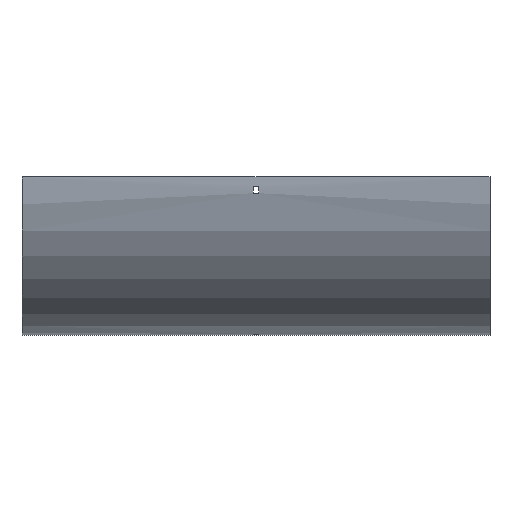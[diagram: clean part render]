
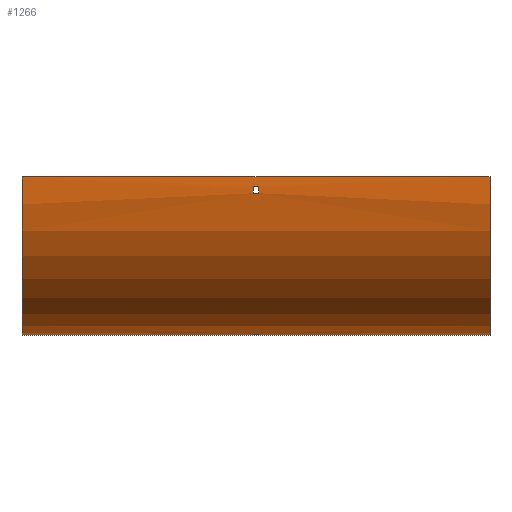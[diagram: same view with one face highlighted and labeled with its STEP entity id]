
A CAD part, front view. The second image highlights one B-rep face of the part: STEP entity #1266.
In plain terms, the highlighted cylindrical face has radius 204 mm (diameter 408 mm), a partial arc.
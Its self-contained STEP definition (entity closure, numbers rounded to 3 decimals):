
#30 = DIRECTION ( 'NONE',  ( 1., 0., 0. ) ) ;
#44 = VECTOR ( 'NONE', #469, 1000. ) ;
#45 = CIRCLE ( 'NONE', #1165, 204. ) ;
#51 = DIRECTION ( 'NONE',  ( 1., 0., 0. ) ) ;
#89 = EDGE_LOOP ( 'NONE', ( #1326, #1609, #721, #1215 ) ) ;
#100 = VECTOR ( 'NONE', #30, 1000. ) ;
#105 = AXIS2_PLACEMENT_3D ( 'NONE', #877, #227, #597 ) ;
#109 = CARTESIAN_POINT ( 'NONE',  ( 3.25, 79., -202.916 ) ) ;
#117 = LINE ( 'NONE', #641, #130 ) ;
#130 = VECTOR ( 'NONE', #671, 1000. ) ;
#156 = EDGE_CURVE ( 'NONE', #490, #1644, #1456, .T. ) ;
#183 = CARTESIAN_POINT ( 'NONE',  ( 302., -104., 0. ) ) ;
#202 = CARTESIAN_POINT ( 'NONE',  ( -3.25, 100., 0. ) ) ;
#227 = DIRECTION ( 'NONE',  ( -1., 0., 0. ) ) ;
#235 = VECTOR ( 'NONE', #808, 1000. ) ;
#239 = CIRCLE ( 'NONE', #513, 204. ) ;
#240 = CIRCLE ( 'NONE', #569, 204. ) ;
#241 = ORIENTED_EDGE ( 'NONE', *, *, #832, .F. ) ;
#281 = ORIENTED_EDGE ( 'NONE', *, *, #325, .T. ) ;
#284 = CARTESIAN_POINT ( 'NONE',  ( 302., 100., -204. ) ) ;
#325 = EDGE_CURVE ( 'NONE', #618, #1049, #1113, .T. ) ;
#348 = CARTESIAN_POINT ( 'NONE',  ( 302., 79., -202.916 ) ) ;
#361 = EDGE_CURVE ( 'NONE', #530, #1176, #828, .T. ) ;
#366 = DIRECTION ( 'NONE',  ( 1., 0., 0. ) ) ;
#371 = DIRECTION ( 'NONE',  ( 1., 0., 0. ) ) ;
#431 = CARTESIAN_POINT ( 'NONE',  ( 3.25, 100., 0. ) ) ;
#435 = EDGE_CURVE ( 'NONE', #754, #618, #1164, .T. ) ;
#453 = VERTEX_POINT ( 'NONE', #1214 ) ;
#469 = DIRECTION ( 'NONE',  ( -1., 0., 0. ) ) ;
#474 = DIRECTION ( 'NONE',  ( -1., 0., 0. ) ) ;
#490 = VERTEX_POINT ( 'NONE', #1674 ) ;
#494 = ORIENTED_EDGE ( 'NONE', *, *, #435, .T. ) ;
#513 = AXIS2_PLACEMENT_3D ( 'NONE', #1377, #1264, #1401 ) ;
#516 = CARTESIAN_POINT ( 'NONE',  ( -302., 100., 0. ) ) ;
#530 = VERTEX_POINT ( 'NONE', #1022 ) ;
#536 = VECTOR ( 'NONE', #474, 1000. ) ;
#537 = EDGE_LOOP ( 'NONE', ( #1090, #494, #281, #1675 ) ) ;
#549 = EDGE_CURVE ( 'NONE', #530, #490, #45, .T. ) ;
#569 = AXIS2_PLACEMENT_3D ( 'NONE', #516, #366, #1560 ) ;
#570 = CARTESIAN_POINT ( 'NONE',  ( -302., -104., 0. ) ) ;
#597 = DIRECTION ( 'NONE',  ( 0., 0., 1. ) ) ;
#614 = FACE_OUTER_BOUND ( 'NONE', #89, .T. ) ;
#618 = VERTEX_POINT ( 'NONE', #912 ) ;
#641 = CARTESIAN_POINT ( 'NONE',  ( 302., -102.916, -21. ) ) ;
#671 = DIRECTION ( 'NONE',  ( -1., 0., 0. ) ) ;
#692 = LINE ( 'NONE', #1087, #1600 ) ;
#694 = DIRECTION ( 'NONE',  ( -1., 0., 0. ) ) ;
#700 = DIRECTION ( 'NONE',  ( 1., 0., 0. ) ) ;
#721 = ORIENTED_EDGE ( 'NONE', *, *, #549, .F. ) ;
#722 = DIRECTION ( 'NONE',  ( 0., 0., 1. ) ) ;
#754 = VERTEX_POINT ( 'NONE', #1098 ) ;
#768 = CARTESIAN_POINT ( 'NONE',  ( -3.25, 100., 0. ) ) ;
#803 = EDGE_CURVE ( 'NONE', #1049, #453, #1253, .T. ) ;
#806 = CARTESIAN_POINT ( 'NONE',  ( -3.25, 79., -202.916 ) ) ;
#808 = DIRECTION ( 'NONE',  ( -1., 0., 0. ) ) ;
#827 = DIRECTION ( 'NONE',  ( 0., 0., -1. ) ) ;
#828 = LINE ( 'NONE', #183, #44 ) ;
#832 = EDGE_CURVE ( 'NONE', #1510, #1017, #692, .T. ) ;
#840 = AXIS2_PLACEMENT_3D ( 'NONE', #768, #901, #1288 ) ;
#865 = AXIS2_PLACEMENT_3D ( 'NONE', #431, #700, #827 ) ;
#877 = CARTESIAN_POINT ( 'NONE',  ( 302., 100., 0. ) ) ;
#899 = EDGE_LOOP ( 'NONE', ( #1028, #951, #1693, #241 ) ) ;
#901 = DIRECTION ( 'NONE',  ( 1., 0., 0. ) ) ;
#906 = EDGE_CURVE ( 'NONE', #1626, #1543, #1402, .T. ) ;
#912 = CARTESIAN_POINT ( 'NONE',  ( -3.25, -103.647, -12. ) ) ;
#951 = ORIENTED_EDGE ( 'NONE', *, *, #906, .F. ) ;
#992 = FACE_BOUND ( 'NONE', #537, .T. ) ;
#1017 = VERTEX_POINT ( 'NONE', #1159 ) ;
#1022 = CARTESIAN_POINT ( 'NONE',  ( 302., -104., 0. ) ) ;
#1028 = ORIENTED_EDGE ( 'NONE', *, *, #1672, .F. ) ;
#1036 = CARTESIAN_POINT ( 'NONE',  ( 3.25, -103.647, -12. ) ) ;
#1049 = VERTEX_POINT ( 'NONE', #1036 ) ;
#1087 = CARTESIAN_POINT ( 'NONE',  ( 302., 88., -203.647 ) ) ;
#1090 = ORIENTED_EDGE ( 'NONE', *, *, #1431, .T. ) ;
#1096 = CARTESIAN_POINT ( 'NONE',  ( -3.25, 88., -203.647 ) ) ;
#1098 = CARTESIAN_POINT ( 'NONE',  ( -3.25, -102.916, -21. ) ) ;
#1113 = LINE ( 'NONE', #1630, #100 ) ;
#1159 = CARTESIAN_POINT ( 'NONE',  ( 3.25, 88., -203.647 ) ) ;
#1164 = CIRCLE ( 'NONE', #1328, 204. ) ;
#1165 = AXIS2_PLACEMENT_3D ( 'NONE', #1524, #371, #1541 ) ;
#1176 = VERTEX_POINT ( 'NONE', #570 ) ;
#1214 = CARTESIAN_POINT ( 'NONE',  ( 3.25, -102.916, -21. ) ) ;
#1215 = ORIENTED_EDGE ( 'NONE', *, *, #361, .T. ) ;
#1247 = FACE_BOUND ( 'NONE', #899, .T. ) ;
#1253 = CIRCLE ( 'NONE', #865, 204. ) ;
#1264 = DIRECTION ( 'NONE',  ( -1., 0., 0. ) ) ;
#1266 = ADVANCED_FACE ( 'NONE', ( #614, #992, #1247 ), #1645, .T. ) ;
#1288 = DIRECTION ( 'NONE',  ( 0., 1., 0. ) ) ;
#1294 = CARTESIAN_POINT ( 'NONE',  ( -302., 100., -204. ) ) ;
#1308 = EDGE_CURVE ( 'NONE', #1017, #1626, #239, .T. ) ;
#1326 = ORIENTED_EDGE ( 'NONE', *, *, #1631, .T. ) ;
#1328 = AXIS2_PLACEMENT_3D ( 'NONE', #202, #694, #722 ) ;
#1368 = CIRCLE ( 'NONE', #840, 204. ) ;
#1377 = CARTESIAN_POINT ( 'NONE',  ( 3.25, 100., 0. ) ) ;
#1401 = DIRECTION ( 'NONE',  ( 0., 0., 1. ) ) ;
#1402 = LINE ( 'NONE', #348, #536 ) ;
#1431 = EDGE_CURVE ( 'NONE', #453, #754, #117, .T. ) ;
#1456 = LINE ( 'NONE', #284, #235 ) ;
#1510 = VERTEX_POINT ( 'NONE', #1096 ) ;
#1524 = CARTESIAN_POINT ( 'NONE',  ( 302., 100., 0. ) ) ;
#1541 = DIRECTION ( 'NONE',  ( 0., 0., -1. ) ) ;
#1543 = VERTEX_POINT ( 'NONE', #806 ) ;
#1560 = DIRECTION ( 'NONE',  ( 0., 0., -1. ) ) ;
#1600 = VECTOR ( 'NONE', #51, 1000. ) ;
#1609 = ORIENTED_EDGE ( 'NONE', *, *, #156, .F. ) ;
#1626 = VERTEX_POINT ( 'NONE', #109 ) ;
#1630 = CARTESIAN_POINT ( 'NONE',  ( 302., -103.647, -12. ) ) ;
#1631 = EDGE_CURVE ( 'NONE', #1176, #1644, #240, .T. ) ;
#1644 = VERTEX_POINT ( 'NONE', #1294 ) ;
#1645 = CYLINDRICAL_SURFACE ( 'NONE', #105, 204. ) ;
#1672 = EDGE_CURVE ( 'NONE', #1543, #1510, #1368, .T. ) ;
#1674 = CARTESIAN_POINT ( 'NONE',  ( 302., 100., -204. ) ) ;
#1675 = ORIENTED_EDGE ( 'NONE', *, *, #803, .T. ) ;
#1693 = ORIENTED_EDGE ( 'NONE', *, *, #1308, .F. ) ;
